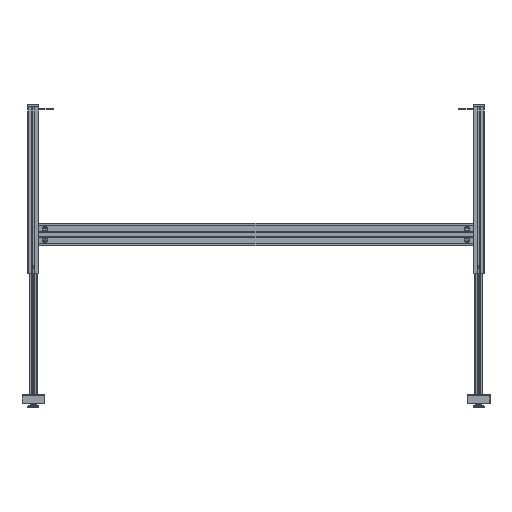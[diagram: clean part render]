
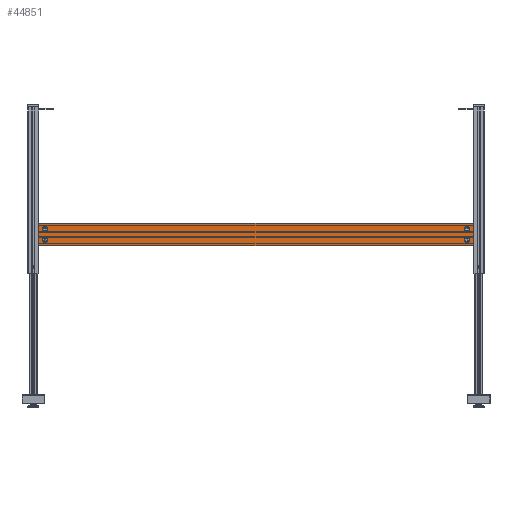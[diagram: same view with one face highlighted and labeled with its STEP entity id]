
A CAD part, left-side view. The second image highlights one B-rep face of the part: STEP entity #44851.
In plain terms, the highlighted planar face has unit normal (-1, 0, 0) as drawn and (1, 0, 0) by its records, which use the part's own axes.
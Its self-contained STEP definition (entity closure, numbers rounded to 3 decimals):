
#2989=CIRCLE('',#57256,9.);
#2990=CIRCLE('',#57257,9.);
#2991=CIRCLE('',#57258,9.);
#2992=CIRCLE('',#57259,9.);
#14773=ORIENTED_EDGE('',*,*,#22028,.T.);
#14774=ORIENTED_EDGE('',*,*,#22029,.T.);
#14775=ORIENTED_EDGE('',*,*,#22030,.T.);
#14776=ORIENTED_EDGE('',*,*,#22031,.T.);
#14777=ORIENTED_EDGE('',*,*,#22032,.T.);
#14778=ORIENTED_EDGE('',*,*,#22033,.F.);
#14779=ORIENTED_EDGE('',*,*,#22034,.T.);
#14780=ORIENTED_EDGE('',*,*,#22035,.T.);
#22028=EDGE_CURVE('',#26662,#26662,#2989,.T.);
#22029=EDGE_CURVE('',#26663,#26663,#2990,.T.);
#22030=EDGE_CURVE('',#26664,#26665,#31223,.T.);
#22031=EDGE_CURVE('',#26665,#26666,#31224,.T.);
#22032=EDGE_CURVE('',#26666,#26667,#31225,.T.);
#22033=EDGE_CURVE('',#26664,#26667,#31226,.T.);
#22034=EDGE_CURVE('',#26668,#26668,#2991,.T.);
#22035=EDGE_CURVE('',#26669,#26669,#2992,.T.);
#26662=VERTEX_POINT('',#82866);
#26663=VERTEX_POINT('',#82868);
#26664=VERTEX_POINT('',#82870);
#26665=VERTEX_POINT('',#82871);
#26666=VERTEX_POINT('',#82873);
#26667=VERTEX_POINT('',#82875);
#26668=VERTEX_POINT('',#82878);
#26669=VERTEX_POINT('',#82880);
#31223=LINE('',#82869,#35704);
#31224=LINE('',#82872,#35705);
#31225=LINE('',#82874,#35706);
#31226=LINE('',#82876,#35707);
#35704=VECTOR('',#69026,1000.);
#35705=VECTOR('',#69027,1000.);
#35706=VECTOR('',#69028,1000.);
#35707=VECTOR('',#69029,1000.);
#38278=EDGE_LOOP('',(#14773));
#38279=EDGE_LOOP('',(#14774));
#38280=EDGE_LOOP('',(#14775,#14776,#14777,#14778));
#38281=EDGE_LOOP('',(#14779));
#38282=EDGE_LOOP('',(#14780));
#40892=FACE_BOUND('',#38278,.T.);
#40893=FACE_BOUND('',#38279,.T.);
#40894=FACE_BOUND('',#38280,.T.);
#40895=FACE_BOUND('',#38281,.T.);
#40896=FACE_BOUND('',#38282,.T.);
#42648=PLANE('',#57255);
#44851=ADVANCED_FACE('',(#40892,#40893,#40894,#40895,#40896),#42648,.T.);
#57255=AXIS2_PLACEMENT_3D('',#82864,#69020,#69021);
#57256=AXIS2_PLACEMENT_3D('',#82865,#69022,#69023);
#57257=AXIS2_PLACEMENT_3D('',#82867,#69024,#69025);
#57258=AXIS2_PLACEMENT_3D('',#82877,#69030,#69031);
#57259=AXIS2_PLACEMENT_3D('',#82879,#69032,#69033);
#69020=DIRECTION('',(1.,0.,0.));
#69021=DIRECTION('',(0.,1.,0.));
#69022=DIRECTION('',(-1.,0.,0.));
#69023=DIRECTION('',(0.,0.,1.));
#69024=DIRECTION('',(-1.,0.,0.));
#69025=DIRECTION('',(0.,0.,1.));
#69026=DIRECTION('',(0.,1.,0.));
#69027=DIRECTION('',(0.,0.,1.));
#69028=DIRECTION('',(0.,-1.,0.));
#69029=DIRECTION('',(0.,0.,1.));
#69030=DIRECTION('',(-1.,0.,0.));
#69031=DIRECTION('',(0.,0.,1.));
#69032=DIRECTION('',(-1.,0.,0.));
#69033=DIRECTION('',(0.,0.,1.));
#82864=CARTESIAN_POINT('',(40.,80.,-1.));
#82865=CARTESIAN_POINT('',(40.,60.,1527.5));
#82866=CARTESIAN_POINT('',(40.,60.,1536.5));
#82867=CARTESIAN_POINT('',(40.,60.,22.5));
#82868=CARTESIAN_POINT('',(40.,60.,31.5));
#82869=CARTESIAN_POINT('',(40.,80.,0.));
#82870=CARTESIAN_POINT('',(40.,0.,0.));
#82871=CARTESIAN_POINT('',(40.,80.,0.));
#82872=CARTESIAN_POINT('',(40.,80.,-1.));
#82873=CARTESIAN_POINT('',(40.,80.,1550.));
#82874=CARTESIAN_POINT('',(40.,40.,1550.));
#82875=CARTESIAN_POINT('',(40.,0.,1550.));
#82876=CARTESIAN_POINT('',(40.,0.,-1.));
#82877=CARTESIAN_POINT('',(40.,20.,1527.5));
#82878=CARTESIAN_POINT('',(40.,20.,1536.5));
#82879=CARTESIAN_POINT('',(40.,20.,22.5));
#82880=CARTESIAN_POINT('',(40.,20.,31.5));
